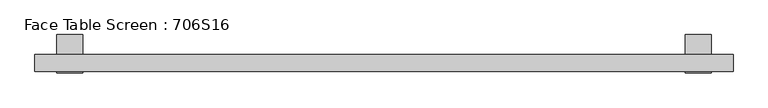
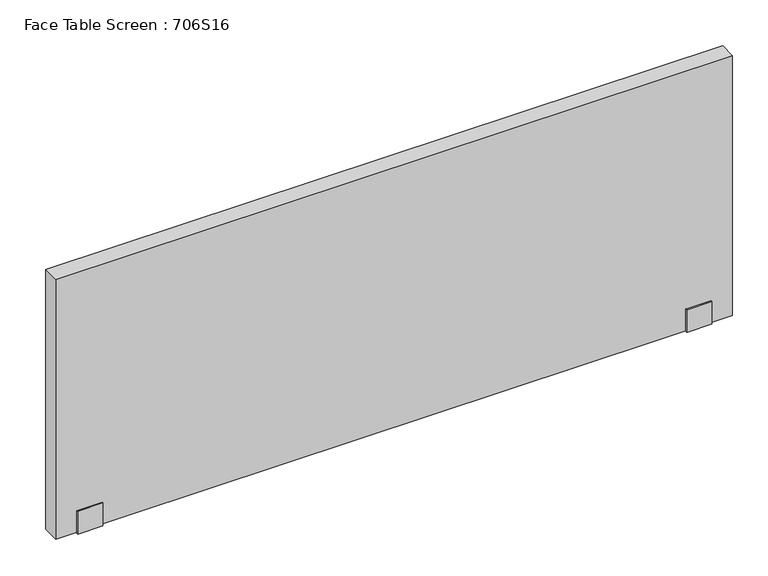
"""IFC4 building model written with IfcOpenShell, lengths in millimetres: furniture geometry, Face Table Screen : 706S16."""

from ifc_helpers import new_model, si_unit, frame, origin, place, context, project, spatial, polyline, outline, extrude, source, transform, mapped, element, save


def face_table_screen_706s16_7d1a2229(model_context):
    return source(origin(), model_context, "Body", "SweptSolid", [
        extrude(outline(polyline([(-22.9999947, -256.0), (-22.9999997, -199.0433898), (-20.0, -199.0433898), (-20.0, -253.0), (20.0, -253.0), (20.0, -22.0), (65.0, -22.0), (65.0, -25.0433898), (23.0000062, -25.0433898), (22.9999947, -256.0), (-22.9999947, -256.0)])), frame((690.0, 0.0, 0.0), z_axis=(1.0, 0.0, 0.0), x_axis=(0.0, 1.0, 0.0)), (0.0, 0.0, 1.0), 60.0),
        extrude(outline(polyline([(-22.9999947, -256.0), (-22.9999997, -199.0433898), (-20.0, -199.0433898), (-20.0, -253.0), (20.0, -253.0), (20.0, -22.0), (65.0, -22.0), (65.0, -25.0433898), (23.0000062, -25.0433898), (22.9999947, -256.0), (-22.9999947, -256.0)])), frame((-750.0, 0.0, 0.0), z_axis=(1.0, 0.0, 0.0), x_axis=(0.0, 1.0, 0.0)), (0.0, 0.0, 1.0), 60.0),
        extrude(outline(polyline([(800.0, -20.0), (-800.0, -20.0), (-800.0, 20.0), (800.0, 20.0), (800.0, -20.0)])), frame((0.0, 0.0, -253.0), z_axis=(0.0, 0.0, 1.0), x_axis=(1.0, 0.0, 0.0)), (0.0, 0.0, 1.0), 650.0),
    ])


if __name__ == "__main__":
    model = new_model("IFC4")
    model_context = context("Model", 3, world=origin())
    ifc_project = project(units=[si_unit("LENGTHUNIT", "METRE", prefix="MILLI")], contexts=[model_context])
    site = spatial("IfcSite", under=ifc_project)
    building = spatial("IfcBuilding", under=site)
    placement = place(None, origin())
    face_table_screen_706s16_shape = face_table_screen_706s16_7d1a2229(model_context)
    element("IfcFurniture", 1, ObjectType="Face Table Screen : 706S16", at=placement, inside=building, context=model_context, shape_type="MappedRepresentation", body=[
        mapped(face_table_screen_706s16_shape, transform((0.0, 0.0, 0.0), x_axis=(1.0, 0.0, 0.0), y_axis=(0.0, 1.0, 0.0), z_axis=(0.0, 0.0, 1.0))),
    ])
    save(model, "model.ifc")
